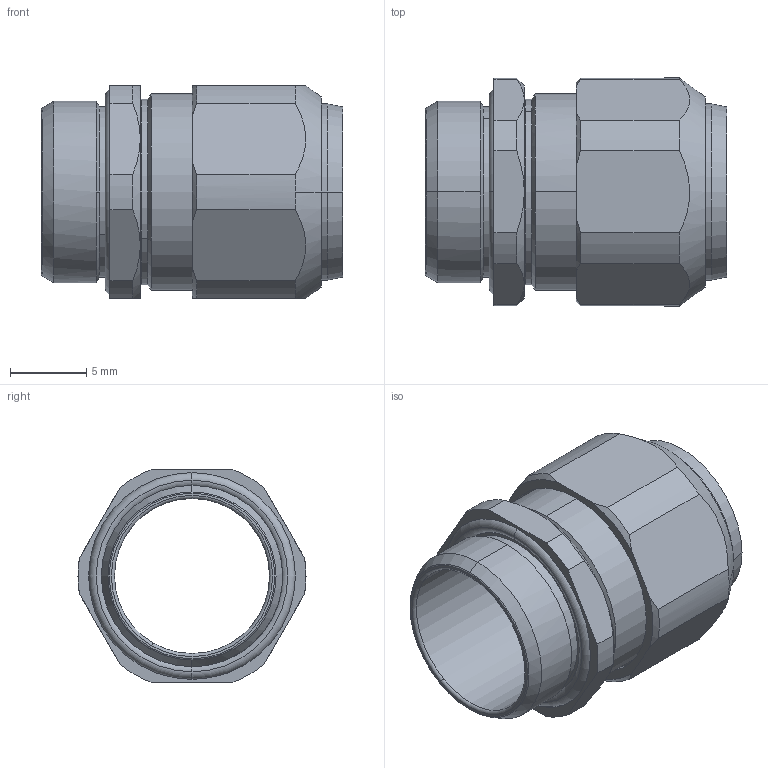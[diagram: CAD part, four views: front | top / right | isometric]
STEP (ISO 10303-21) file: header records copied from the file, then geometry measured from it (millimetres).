
FILE_DESCRIPTION(('Creo Elements/Direct Modeling STEP Export'),'2;1');
FILE_NAME('H20-0016-CL901-00_OA-WS12M-85／100.stp','2021-10-14T17:01:05',(''),(''),'Creo Elements/Direct Modeling STEP processor for AP214 (Solid Model)','Creo Elements/Direct Modeling 20.3B 05-Dec-2020 (C) Parametric Technology GmbH','');
FILE_SCHEMA(('AUTOMOTIVE_DESIGN { 1 0 10303 214 1 1 1 1 }'));
Length unit declared in the file: millimetre
Products named in the file (2): H20-0016-CL901-00_OA-WS12M-85／100
Assembly tree (1 placements, depth 2):
  H20-0016-CL901-00_OA-WS12M-85／100
    H20-0016-CL901-00_OA-WS12M-85／100
Bounding box: 19.8 x 15 x 14 mm (x, y, z)
Volume: 1142.2 mm3; surface area: 1836 mm2
Topology: 1 solids, 1 shells, 118 faces, 296 edges, 192 vertices
Faces by surface type: cylinder 42, torus 28, plane 26, cone 22
Entity records: 3420 total; most frequent: CARTESIAN_POINT 895, ORIENTED_EDGE 592, DIRECTION 442, EDGE_CURVE 296, VERTEX_POINT 192, AXIS2_PLACEMENT_3D 183, EDGE_LOOP 132, FACE_OUTER_BOUND 118
